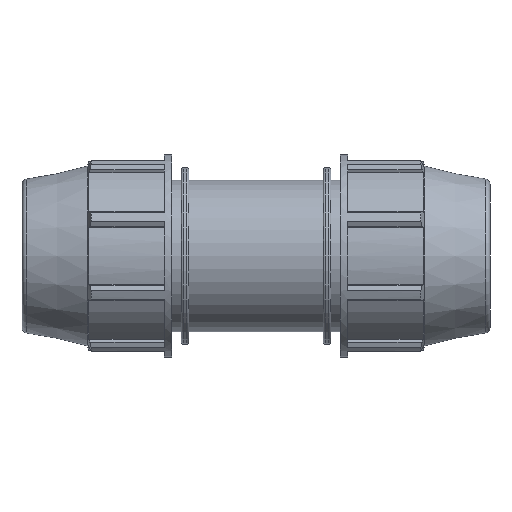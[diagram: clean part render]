
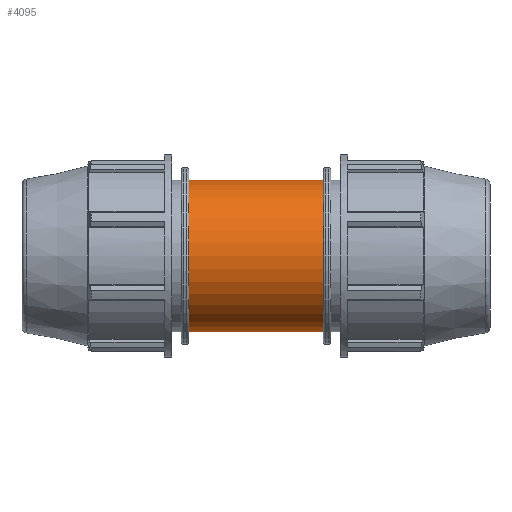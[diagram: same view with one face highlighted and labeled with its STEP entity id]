
A CAD part, front view. The second image highlights one B-rep face of the part: STEP entity #4095.
In plain terms, the highlighted cylindrical face has radius 36.005 mm (diameter 72.009 mm), a full revolution.
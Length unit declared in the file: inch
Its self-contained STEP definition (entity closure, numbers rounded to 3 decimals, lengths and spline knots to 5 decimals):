
#106=FACE_BOUND('',#387,.T.);
#123=B_SPLINE_CURVE_WITH_KNOTS('',3,(#5968,#5969,#5970,#5971,#5972,#5973,
#5974,#5975,#5976,#5977,#5978,#5979,#5980,#5981,#5982,#5983,#5984,#5985),
 .UNSPECIFIED.,.F.,.F.,(4,2,2,2,2,2,2,2,4),(0.,0.38549,0.77098,
1.15648,1.54197,1.92578,2.3096,2.69341,
3.07723),.UNSPECIFIED.);
#124=B_SPLINE_CURVE_WITH_KNOTS('',3,(#5986,#5987,#5988,#5989,#5990,#5991,
#5992,#5993,#5994,#5995,#5996,#5997,#5998,#5999,#6000,#6001,#6002,#6003,
#6004,#6005,#6006,#6007,#6008,#6009,#6010,#6011,#6012,#6013,#6014,#6015,
#6016,#6017,#6018,#6019,#6020,#6021,#6022,#6023,#6024,#6025,#6026,#6027,
#6028,#6029,#6030,#6031,#6032,#6033,#6034,#6035),.UNSPECIFIED.,.F.,.F.,
(4,2,2,2,2,2,2,2,2,2,2,2,2,2,2,2,2,2,2,2,2,2,2,2,4),(3.07723,3.46104,
3.84486,4.22867,4.61249,4.99798,5.38347,
5.76896,6.15445,6.53995,6.92544,7.31093,
7.69642,8.08024,8.46405,8.84787,9.23168,
9.6155,9.99931,10.38312,10.76694,11.15243,
11.53792,11.92342,12.30891),.UNSPECIFIED.);
#134=CYLINDRICAL_SURFACE('',#4329,1.4175);
#178=FACE_OUTER_BOUND('',#386,.T.);
#386=EDGE_LOOP('',(#2522,#2523,#2524,#2525,#2526,#2527));
#387=EDGE_LOOP('',(#2528,#2529));
#615=CIRCLE('',#4330,1.4175);
#616=CIRCLE('',#4331,1.4175);
#617=CIRCLE('',#4332,1.4175);
#618=CIRCLE('',#4333,1.4175);
#835=LINE('',#5962,#1155);
#1155=VECTOR('',#4779,1.4175);
#1481=VERTEX_POINT('',#5957);
#1482=VERTEX_POINT('',#5958);
#1483=VERTEX_POINT('',#5961);
#1484=VERTEX_POINT('',#5963);
#1485=VERTEX_POINT('',#5966);
#1486=VERTEX_POINT('',#5967);
#1905=EDGE_CURVE('',#1481,#1482,#615,.T.);
#1906=EDGE_CURVE('',#1482,#1481,#616,.T.);
#1907=EDGE_CURVE('',#1482,#1483,#835,.T.);
#1908=EDGE_CURVE('',#1483,#1484,#617,.T.);
#1909=EDGE_CURVE('',#1484,#1483,#618,.T.);
#1910=EDGE_CURVE('',#1485,#1486,#123,.T.);
#1911=EDGE_CURVE('',#1486,#1485,#124,.T.);
#2522=ORIENTED_EDGE('',*,*,#1905,.F.);
#2523=ORIENTED_EDGE('',*,*,#1906,.F.);
#2524=ORIENTED_EDGE('',*,*,#1907,.T.);
#2525=ORIENTED_EDGE('',*,*,#1908,.T.);
#2526=ORIENTED_EDGE('',*,*,#1909,.T.);
#2527=ORIENTED_EDGE('',*,*,#1907,.F.);
#2528=ORIENTED_EDGE('',*,*,#1910,.F.);
#2529=ORIENTED_EDGE('',*,*,#1911,.F.);
#4095=ADVANCED_FACE('',(#178,#106),#134,.T.);
#4329=AXIS2_PLACEMENT_3D('',#5956,#4773,#4774);
#4330=AXIS2_PLACEMENT_3D('',#5959,#4775,#4776);
#4331=AXIS2_PLACEMENT_3D('',#5960,#4777,#4778);
#4332=AXIS2_PLACEMENT_3D('',#5964,#4780,#4781);
#4333=AXIS2_PLACEMENT_3D('',#5965,#4782,#4783);
#4773=DIRECTION('center_axis',(1.,0.,0.));
#4774=DIRECTION('ref_axis',(0.,1.,0.));
#4775=DIRECTION('center_axis',(1.,0.,0.));
#4776=DIRECTION('ref_axis',(0.,0.,-1.));
#4777=DIRECTION('center_axis',(1.,0.,0.));
#4778=DIRECTION('ref_axis',(0.,0.,-1.));
#4779=DIRECTION('',(-1.,0.,0.));
#4780=DIRECTION('center_axis',(1.,0.,0.));
#4781=DIRECTION('ref_axis',(0.,0.,-1.));
#4782=DIRECTION('center_axis',(1.,0.,0.));
#4783=DIRECTION('ref_axis',(0.,0.,-1.));
#5956=CARTESIAN_POINT('Origin',(0.88857,0.,0.));
#5957=CARTESIAN_POINT('',(1.25273,1.4175,0.));
#5958=CARTESIAN_POINT('',(1.25273,-1.4175,0.));
#5959=CARTESIAN_POINT('Origin',(1.25273,0.,0.));
#5960=CARTESIAN_POINT('Origin',(1.25273,0.,0.));
#5961=CARTESIAN_POINT('',(-1.25273,-1.4175,0.));
#5962=CARTESIAN_POINT('',(0.88857,-1.4175,0.));
#5963=CARTESIAN_POINT('',(-1.25273,1.4175,0.));
#5964=CARTESIAN_POINT('Origin',(-1.25273,0.,0.));
#5965=CARTESIAN_POINT('Origin',(-1.25273,0.,0.));
#5966=CARTESIAN_POINT('',(0.,1.18112,0.78375));
#5967=CARTESIAN_POINT('',(0.78375,1.4175,0.));
#5968=CARTESIAN_POINT('Ctrl Pts',(0.,1.18112,
0.78375));
#5969=CARTESIAN_POINT('Ctrl Pts',(0.05059,1.18112,0.78375));
#5970=CARTESIAN_POINT('Ctrl Pts',(0.1024,1.18447,0.77878));
#5971=CARTESIAN_POINT('Ctrl Pts',(0.20461,1.19764,0.75836));
#5972=CARTESIAN_POINT('Ctrl Pts',(0.255,1.20744,0.74293));
#5973=CARTESIAN_POINT('Ctrl Pts',(0.35106,1.23131,0.70266));
#5974=CARTESIAN_POINT('Ctrl Pts',(0.39682,1.24537,0.67779));
#5975=CARTESIAN_POINT('Ctrl Pts',(0.48125,1.27479,0.62069));
#5976=CARTESIAN_POINT('Ctrl Pts',(0.51993,1.29012,0.58846));
#5977=CARTESIAN_POINT('Ctrl Pts',(0.58831,1.31916,0.52008));
#5978=CARTESIAN_POINT('Ctrl Pts',(0.62052,1.33396,0.48148));
#5979=CARTESIAN_POINT('Ctrl Pts',(0.67768,1.36149,0.39701));
#5980=CARTESIAN_POINT('Ctrl Pts',(0.70262,1.3742,0.35115));
#5981=CARTESIAN_POINT('Ctrl Pts',(0.74298,1.39527,0.25488));
#5982=CARTESIAN_POINT('Ctrl Pts',(0.75843,1.40363,0.20437));
#5983=CARTESIAN_POINT('Ctrl Pts',(0.77882,1.41475,0.10212));
#5984=CARTESIAN_POINT('Ctrl Pts',(0.78375,1.4175,0.05037));
#5985=CARTESIAN_POINT('Ctrl Pts',(0.78375,1.4175,0.));
#5986=CARTESIAN_POINT('Ctrl Pts',(0.78375,1.4175,0.));
#5987=CARTESIAN_POINT('Ctrl Pts',(0.78375,1.4175,-0.05037));
#5988=CARTESIAN_POINT('Ctrl Pts',(0.77882,1.41475,-0.10212));
#5989=CARTESIAN_POINT('Ctrl Pts',(0.75843,1.40363,-0.20437));
#5990=CARTESIAN_POINT('Ctrl Pts',(0.74298,1.39527,-0.25488));
#5991=CARTESIAN_POINT('Ctrl Pts',(0.70262,1.3742,-0.35115));
#5992=CARTESIAN_POINT('Ctrl Pts',(0.67768,1.36149,-0.39701));
#5993=CARTESIAN_POINT('Ctrl Pts',(0.62052,1.33396,-0.48148));
#5994=CARTESIAN_POINT('Ctrl Pts',(0.58831,1.31916,-0.52008));
#5995=CARTESIAN_POINT('Ctrl Pts',(0.51993,1.29012,-0.58846));
#5996=CARTESIAN_POINT('Ctrl Pts',(0.48125,1.27479,-0.62069));
#5997=CARTESIAN_POINT('Ctrl Pts',(0.39682,1.24537,-0.67779));
#5998=CARTESIAN_POINT('Ctrl Pts',(0.35106,1.23131,-0.70266));
#5999=CARTESIAN_POINT('Ctrl Pts',(0.255,1.20744,-0.74293));
#6000=CARTESIAN_POINT('Ctrl Pts',(0.20461,1.19764,-0.75836));
#6001=CARTESIAN_POINT('Ctrl Pts',(0.1024,1.18447,-0.77878));
#6002=CARTESIAN_POINT('Ctrl Pts',(0.05059,1.18112,-0.78375));
#6003=CARTESIAN_POINT('Ctrl Pts',(-0.05059,1.18112,
-0.78375));
#6004=CARTESIAN_POINT('Ctrl Pts',(-0.1024,1.18447,-0.77878));
#6005=CARTESIAN_POINT('Ctrl Pts',(-0.20461,1.19764,-0.75836));
#6006=CARTESIAN_POINT('Ctrl Pts',(-0.255,1.20744,-0.74293));
#6007=CARTESIAN_POINT('Ctrl Pts',(-0.35106,1.23131,-0.70266));
#6008=CARTESIAN_POINT('Ctrl Pts',(-0.39682,1.24537,-0.67779));
#6009=CARTESIAN_POINT('Ctrl Pts',(-0.48125,1.27479,-0.62069));
#6010=CARTESIAN_POINT('Ctrl Pts',(-0.51993,1.29012,-0.58846));
#6011=CARTESIAN_POINT('Ctrl Pts',(-0.58831,1.31916,-0.52008));
#6012=CARTESIAN_POINT('Ctrl Pts',(-0.62052,1.33396,-0.48148));
#6013=CARTESIAN_POINT('Ctrl Pts',(-0.67768,1.36149,-0.39701));
#6014=CARTESIAN_POINT('Ctrl Pts',(-0.70262,1.3742,-0.35115));
#6015=CARTESIAN_POINT('Ctrl Pts',(-0.74298,1.39527,-0.25488));
#6016=CARTESIAN_POINT('Ctrl Pts',(-0.75843,1.40363,-0.20437));
#6017=CARTESIAN_POINT('Ctrl Pts',(-0.77882,1.41475,-0.10212));
#6018=CARTESIAN_POINT('Ctrl Pts',(-0.78375,1.4175,-0.05037));
#6019=CARTESIAN_POINT('Ctrl Pts',(-0.78375,1.4175,0.05037));
#6020=CARTESIAN_POINT('Ctrl Pts',(-0.77882,1.41475,0.10212));
#6021=CARTESIAN_POINT('Ctrl Pts',(-0.75843,1.40363,0.20437));
#6022=CARTESIAN_POINT('Ctrl Pts',(-0.74298,1.39527,0.25488));
#6023=CARTESIAN_POINT('Ctrl Pts',(-0.70262,1.3742,0.35115));
#6024=CARTESIAN_POINT('Ctrl Pts',(-0.67768,1.36149,0.39701));
#6025=CARTESIAN_POINT('Ctrl Pts',(-0.62052,1.33396,0.48148));
#6026=CARTESIAN_POINT('Ctrl Pts',(-0.58831,1.31916,0.52008));
#6027=CARTESIAN_POINT('Ctrl Pts',(-0.51993,1.29012,0.58846));
#6028=CARTESIAN_POINT('Ctrl Pts',(-0.48125,1.27479,0.62069));
#6029=CARTESIAN_POINT('Ctrl Pts',(-0.39682,1.24537,0.67779));
#6030=CARTESIAN_POINT('Ctrl Pts',(-0.35106,1.23131,0.70266));
#6031=CARTESIAN_POINT('Ctrl Pts',(-0.255,1.20744,0.74293));
#6032=CARTESIAN_POINT('Ctrl Pts',(-0.20461,1.19764,0.75836));
#6033=CARTESIAN_POINT('Ctrl Pts',(-0.1024,1.18447,0.77878));
#6034=CARTESIAN_POINT('Ctrl Pts',(-0.05059,1.18112,
0.78375));
#6035=CARTESIAN_POINT('Ctrl Pts',(0.,1.18112,
0.78375));
